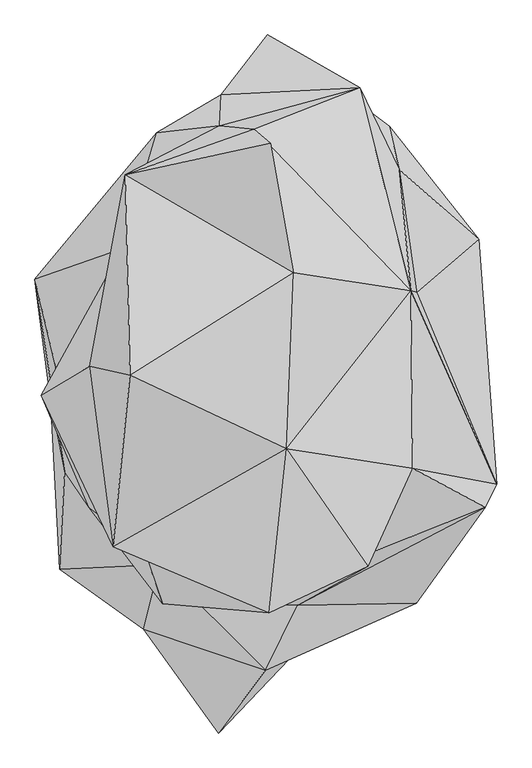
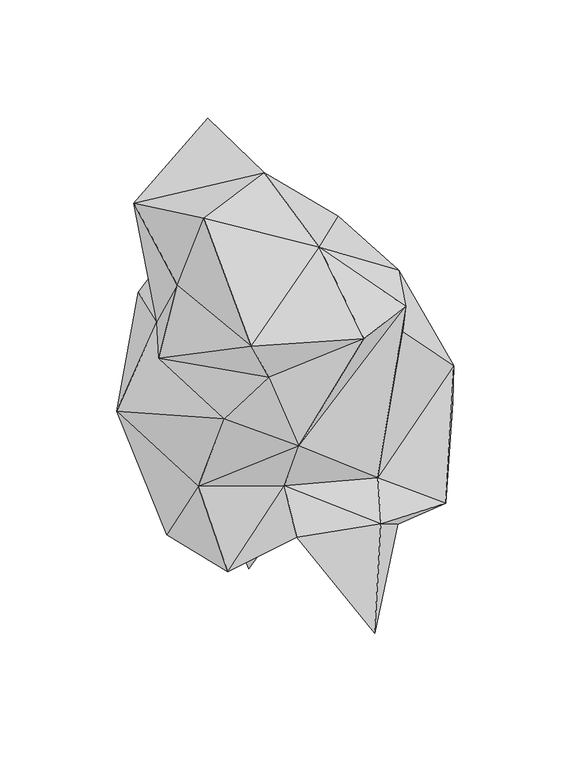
"""IFC4 building model written with IfcOpenShell, lengths in millimetres: geographic element geometry, Enscape AssetDefinition - Potted Plant 217 Dumb Cane : Enscape AssetDefinition - Potted Plant 217 Dumb Cane 3."""

from ifc_helpers import new_model, si_unit, origin, place, context, project, spatial, triangles, source, transform, mapped, element, save


def geographic_element_61ae229a(model_context):
    return source(origin(), model_context, "Body", "Tessellation", [
        triangles([(-330.8672316, -384.563627, 971.6685247), (-456.9465271, 143.6533319, 727.8279579), (-388.2646002, -301.1433555, 657.2337931), (-205.3696411, -665.8571766, 597.298825), (-168.2729592, -516.5760996, 712.9587347), (-420.0606972, -138.4109284, 363.6085834), (-178.0524495, -226.7100536, 319.0009501), (-399.9926997, -527.1771967, 437.3075369), (-112.5406688, -554.1163227, 541.1084321), (73.9679733, -110.2793879, 250.5880474), (-85.7906301, -5.8822462, 201.7413923), (9.9612811, 122.2183757, 204.0099675), (-20.6787478, -13.9966918, 4.7479688), (-73.080909, 291.2620364, 376.5655323), (247.9341396, 240.4158849, 376.8490906), (254.5361894, -383.6693138, 435.8024325), (470.9068305, -291.3347609, 555.1851528), (381.9897288, -38.4054683, 301.2233288), (99.0674905, 420.5915151, 609.2305095), (-25.6375771, 570.7450679, 834.9081224), (81.042655, 708.436191, 749.8372976), (363.0414668, 497.2061337, 566.0989489), (387.2393721, 396.5753574, 952.9819473), (427.1135734, 114.016687, 896.2681126), (570.3888033, 235.4788861, 733.9065113), (-28.9458849, 498.3912721, 1054.732568), (295.26112, 585.8179124, 993.9686897), (-330.5836733, 134.5791038, 361.9871344), (-174.9404665, 482.5768667, 925.7448744), (50.3081075, 489.7460512, 1341.7992027), (-236.707681, -78.9486149, 1600.0000122), (-247.6214589, 385.5234158, 1384.9891537), (87.9573855, 457.6227213, 1583.7855949), (142.0682451, 158.8279143, 1515.4599689), (-330.5618723, -58.0953593, 1336.9638874), (-442.7680321, -124.5014849, 1108.4069807), (-255.074238, 213.6949505, 992.2018644), (-206.9837867, -475.1240513, 1159.3187714), (-275.9565934, -475.7057382, 1314.7437321), (417.1813671, -294.1559368, 1281.7769943), (125.352196, -249.1120111, 1454.1798431), (612.5243128, -330.7145156, 679.3449434), (413.022355, 117.3395401, 1262.0870625), (320.4769501, -489.2152697, 1174.3115335), (313.9984938, -520.3351725, 1304.5497322), (84.9544529, -627.6625603, 1311.3116741), (-161.2927711, -606.4094244, 932.9140589), (150.8443355, -610.7646818, 690.4986231), (585.970592, -383.7856585, 875.3930059), (425.8048233, -605.7550312, 484.6417843), (77.0436077, -760.1038948, 614.1311914), (-32.377802, -905.8149136, 278.726864), (202.9120512, -659.6768126, 505.9531288)], [[2, 1, 37], [1, 36, 37], [1, 38, 36], [9, 52, 4], [9, 16, 53], [53, 52, 9], [51, 52, 53], [4, 51, 5], [52, 51, 4], [50, 16, 17], [53, 16, 50], [53, 50, 51], [17, 42, 50], [49, 50, 42], [44, 48, 49], [48, 51, 50], [50, 49, 48], [51, 48, 5], [47, 5, 48], [1, 47, 38], [47, 46, 38], [47, 48, 45], [45, 48, 44], [47, 45, 46], [40, 45, 44], [42, 40, 49], [44, 49, 40], [43, 42, 24], [43, 40, 42], [41, 40, 43], [41, 46, 45], [45, 40, 41], [39, 38, 46], [36, 38, 39], [39, 46, 41], [36, 35, 37], [36, 39, 35], [31, 35, 39], [39, 41, 31], [34, 41, 43], [34, 31, 41], [33, 32, 34], [35, 31, 32], [31, 34, 32], [37, 35, 32], [34, 43, 30], [33, 30, 32], [34, 30, 33], [43, 27, 30], [27, 26, 30], [30, 26, 32], [37, 32, 26], [29, 37, 26], [29, 2, 37], [28, 2, 29], [27, 20, 26], [20, 28, 29], [26, 20, 29], [27, 21, 20], [23, 43, 24], [27, 23, 21], [43, 23, 27], [23, 24, 25], [42, 25, 24], [23, 22, 21], [25, 22, 23], [21, 22, 19], [19, 28, 20], [19, 20, 21], [14, 28, 19], [15, 22, 25], [19, 15, 14], [15, 19, 22], [15, 25, 18], [25, 42, 18], [17, 18, 42], [16, 18, 17], [15, 18, 12], [15, 12, 14], [14, 12, 28], [18, 10, 12], [10, 18, 16], [10, 13, 12], [11, 12, 13], [12, 11, 28], [11, 13, 10], [10, 7, 11], [10, 16, 7], [16, 9, 7], [7, 28, 11], [7, 6, 28], [6, 2, 28], [7, 9, 8], [6, 7, 8], [8, 4, 5], [8, 9, 4], [2, 6, 3], [3, 47, 1], [3, 5, 47], [3, 8, 5], [8, 3, 6], [3, 1, 2]]),
    ])


if __name__ == "__main__":
    model = new_model("IFC4")
    model_context = context("Model", 3, world=origin())
    ifc_project = project(units=[si_unit("LENGTHUNIT", "METRE", prefix="MILLI")], contexts=[model_context])
    site = spatial("IfcSite", under=ifc_project)
    building = spatial("IfcBuilding", under=site)
    placement = place(None, origin())
    geographic_element_shape = geographic_element_61ae229a(model_context)
    element("IfcGeographicElement", 1, ObjectType="Enscape AssetDefinition - Potted Plant 217 Dumb Cane : Enscape AssetDefinition - Potted Plant 217 Dumb Cane 3", at=placement, inside=building, context=model_context, shape_type="MappedRepresentation", body=[
        mapped(geographic_element_shape, transform((0.0, 0.0, 0.0), x_axis=(1.0, 0.0, 0.0), y_axis=(0.0, 1.0, 0.0), z_axis=(0.0, 0.0, 1.0))),
    ])
    save(model, "model.ifc")
